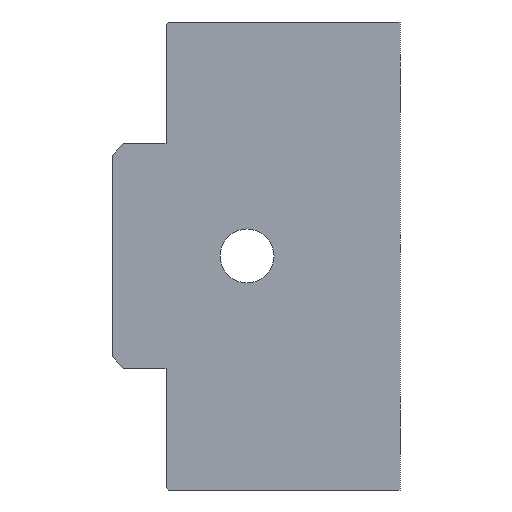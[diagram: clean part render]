
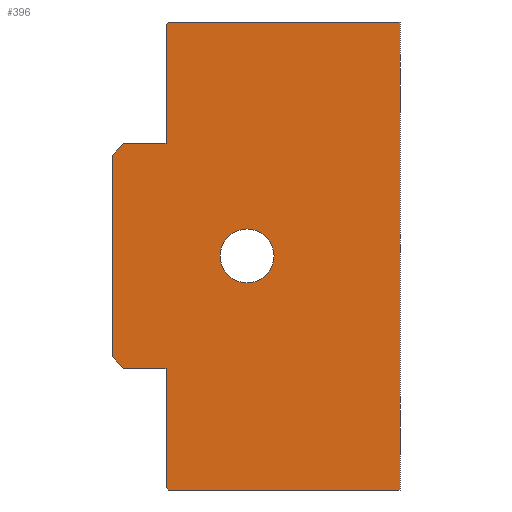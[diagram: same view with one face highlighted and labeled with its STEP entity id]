
A CAD part, left-side view. The second image highlights one B-rep face of the part: STEP entity #396.
In plain terms, the highlighted planar face has unit normal (-1, 0, 0).
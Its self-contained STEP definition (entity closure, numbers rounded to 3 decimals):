
#16=LINE('',#585,#52);
#21=LINE('',#596,#57);
#25=LINE('',#603,#61);
#27=LINE('',#608,#63);
#30=LINE('',#612,#66);
#38=LINE('',#629,#74);
#40=LINE('',#633,#76);
#42=LINE('',#637,#78);
#44=LINE('',#641,#80);
#45=LINE('',#643,#81);
#46=LINE('',#645,#82);
#47=LINE('',#646,#83);
#52=VECTOR('',#485,4.7);
#57=VECTOR('',#492,1.838);
#61=VECTOR('',#498,4.7);
#63=VECTOR('',#502,1.838);
#66=VECTOR('',#507,22.4);
#74=VECTOR('',#519,13.24);
#76=VECTOR('',#523,0.368);
#78=VECTOR('',#527,25.74);
#80=VECTOR('',#531,13.24);
#81=VECTOR('',#532,0.368);
#82=VECTOR('',#533,25.74);
#83=VECTOR('',#534,52.);
#104=FACE_BOUND('',#161,.T.);
#126=FACE_OUTER_BOUND('',#160,.T.);
#160=EDGE_LOOP('',(#329,#330,#331,#332,#333,#334,#335,#336,#337,#338,#339,
#340));
#161=EDGE_LOOP('',(#341));
#180=CIRCLE('',#423,3.);
#192=VERTEX_POINT('',#578);
#193=VERTEX_POINT('',#581);
#195=VERTEX_POINT('',#584);
#199=VERTEX_POINT('',#593);
#200=VERTEX_POINT('',#595);
#202=VERTEX_POINT('',#600);
#204=VERTEX_POINT('',#607);
#211=VERTEX_POINT('',#628);
#212=VERTEX_POINT('',#632);
#213=VERTEX_POINT('',#636);
#214=VERTEX_POINT('',#640);
#215=VERTEX_POINT('',#642);
#216=VERTEX_POINT('',#644);
#228=EDGE_CURVE('',#192,#192,#180,.T.);
#230=EDGE_CURVE('',#193,#195,#16,.T.);
#235=EDGE_CURVE('',#200,#199,#21,.T.);
#239=EDGE_CURVE('',#200,#202,#25,.T.);
#241=EDGE_CURVE('',#204,#195,#27,.T.);
#244=EDGE_CURVE('',#199,#204,#30,.T.);
#252=EDGE_CURVE('',#211,#202,#38,.T.);
#254=EDGE_CURVE('',#212,#211,#40,.T.);
#256=EDGE_CURVE('',#212,#213,#42,.T.);
#258=EDGE_CURVE('',#193,#214,#44,.T.);
#259=EDGE_CURVE('',#214,#215,#45,.T.);
#260=EDGE_CURVE('',#216,#215,#46,.T.);
#261=EDGE_CURVE('',#213,#216,#47,.T.);
#329=ORIENTED_EDGE('',*,*,#252,.T.);
#330=ORIENTED_EDGE('',*,*,#239,.F.);
#331=ORIENTED_EDGE('',*,*,#235,.T.);
#332=ORIENTED_EDGE('',*,*,#244,.T.);
#333=ORIENTED_EDGE('',*,*,#241,.T.);
#334=ORIENTED_EDGE('',*,*,#230,.F.);
#335=ORIENTED_EDGE('',*,*,#258,.T.);
#336=ORIENTED_EDGE('',*,*,#259,.T.);
#337=ORIENTED_EDGE('',*,*,#260,.F.);
#338=ORIENTED_EDGE('',*,*,#261,.F.);
#339=ORIENTED_EDGE('',*,*,#256,.F.);
#340=ORIENTED_EDGE('',*,*,#254,.T.);
#341=ORIENTED_EDGE('',*,*,#228,.T.);
#373=PLANE('',#433);
#396=ADVANCED_FACE('',(#126,#104),#373,.F.);
#423=AXIS2_PLACEMENT_3D('',#579,#480,#481);
#433=AXIS2_PLACEMENT_3D('',#639,#529,#530);
#480=DIRECTION('center_axis',(1.,0.,0.));
#481=DIRECTION('ref_axis',(0.,0.,-1.));
#485=DIRECTION('',(0.,1.,0.));
#492=DIRECTION('',(0.,0.707,-0.707));
#498=DIRECTION('',(0.,-1.,0.));
#502=DIRECTION('',(0.,-0.707,-0.707));
#507=DIRECTION('',(0.,0.,-1.));
#519=DIRECTION('',(0.,0.,-1.));
#523=DIRECTION('',(0.,0.707,-0.707));
#527=DIRECTION('',(0.,-1.,0.));
#529=DIRECTION('center_axis',(1.,0.,0.));
#530=DIRECTION('ref_axis',(0.,0.,-1.));
#531=DIRECTION('',(0.,0.,-1.));
#532=DIRECTION('',(0.,-0.707,-0.707));
#533=DIRECTION('',(0.,1.,0.));
#534=DIRECTION('',(0.,0.,-1.));
#578=CARTESIAN_POINT('',(0.,0.,3.));
#579=CARTESIAN_POINT('Origin',(0.,0.,0.));
#581=CARTESIAN_POINT('',(0.,9.,-12.5));
#584=CARTESIAN_POINT('',(0.,13.7,-12.5));
#585=CARTESIAN_POINT('',(0.,11.5,-12.5));
#593=CARTESIAN_POINT('',(0.,15.,11.2));
#595=CARTESIAN_POINT('',(0.,13.7,12.5));
#596=CARTESIAN_POINT('',(0.,16.6,9.6));
#600=CARTESIAN_POINT('',(0.,9.,12.5));
#603=CARTESIAN_POINT('',(0.,11.5,12.5));
#607=CARTESIAN_POINT('',(0.,15.,-11.2));
#608=CARTESIAN_POINT('',(0.,16.6,-9.6));
#612=CARTESIAN_POINT('',(0.,15.,0.));
#628=CARTESIAN_POINT('',(0.,9.,25.74));
#629=CARTESIAN_POINT('',(0.,9.,0.));
#632=CARTESIAN_POINT('',(0.,8.74,26.));
#633=CARTESIAN_POINT('',(0.,12.12,22.62));
#636=CARTESIAN_POINT('',(0.,-17.,26.));
#637=CARTESIAN_POINT('',(0.,-4.,26.));
#639=CARTESIAN_POINT('Origin',(0.,-4.,0.));
#640=CARTESIAN_POINT('',(0.,9.,-25.74));
#641=CARTESIAN_POINT('',(0.,9.,0.));
#642=CARTESIAN_POINT('',(0.,8.74,-26.));
#643=CARTESIAN_POINT('',(0.,12.12,-22.62));
#644=CARTESIAN_POINT('',(0.,-17.,-26.));
#645=CARTESIAN_POINT('',(0.,-4.,-26.));
#646=CARTESIAN_POINT('',(0.,-17.,0.));
